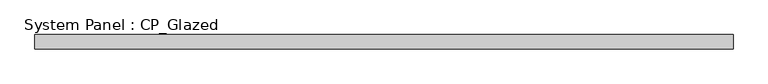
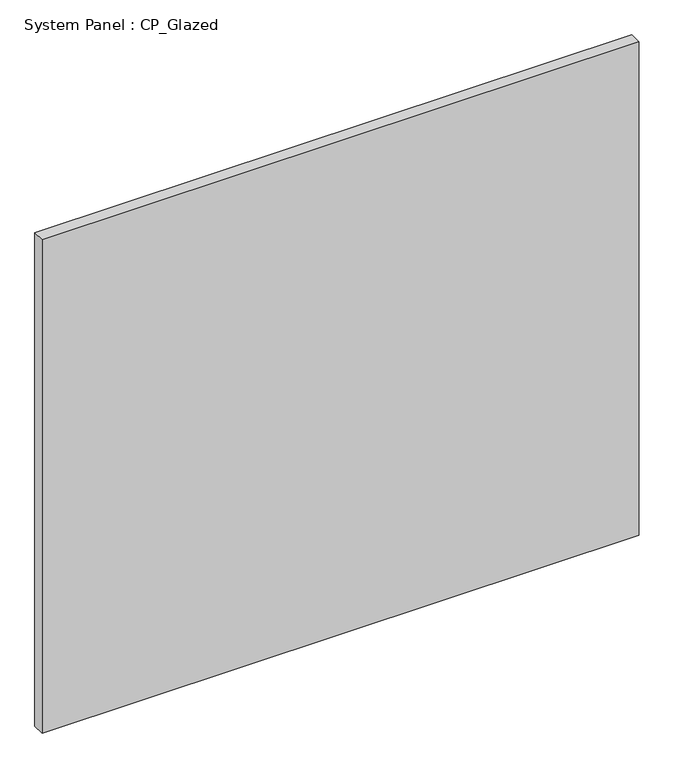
"""IFC4 building model written with IfcOpenShell, lengths in millimetres: plate geometry, System Panel : CP_Glazed."""

from ifc_helpers import new_model, si_unit, origin, origin_with_axes, place, context, project, spatial, polyline, outline, extrude, source, transform, mapped, element, save


def system_panel_cp_glazed_a94fd0de(model_context):
    return source(origin(), model_context, "Body", "SweptSolid", [
        extrude(outline(polyline([(614.3625, -44.45), (-614.3625, -44.45), (-614.3625, -19.05), (614.3625, -19.05), (614.3625, -44.45)])), origin_with_axes(), (0.0, 0.0, 1.0), 1073.15),
    ])


if __name__ == "__main__":
    model = new_model("IFC4")
    model_context = context("Model", 3, world=origin())
    ifc_project = project(units=[si_unit("LENGTHUNIT", "METRE", prefix="MILLI")], contexts=[model_context])
    site = spatial("IfcSite", under=ifc_project)
    building = spatial("IfcBuilding", under=site)
    placement = place(None, origin())
    system_panel_cp_glazed_shape = system_panel_cp_glazed_a94fd0de(model_context)
    element("IfcPlate", 1, ObjectType="System Panel : CP_Glazed", at=placement, inside=building, context=model_context, shape_type="MappedRepresentation", body=[
        mapped(system_panel_cp_glazed_shape, transform((0.0, 0.0, 0.0), x_axis=(1.0, 0.0, 0.0), y_axis=(0.0, 1.0, 0.0), z_axis=(0.0, 0.0, 1.0))),
    ])
    save(model, "model.ifc")
